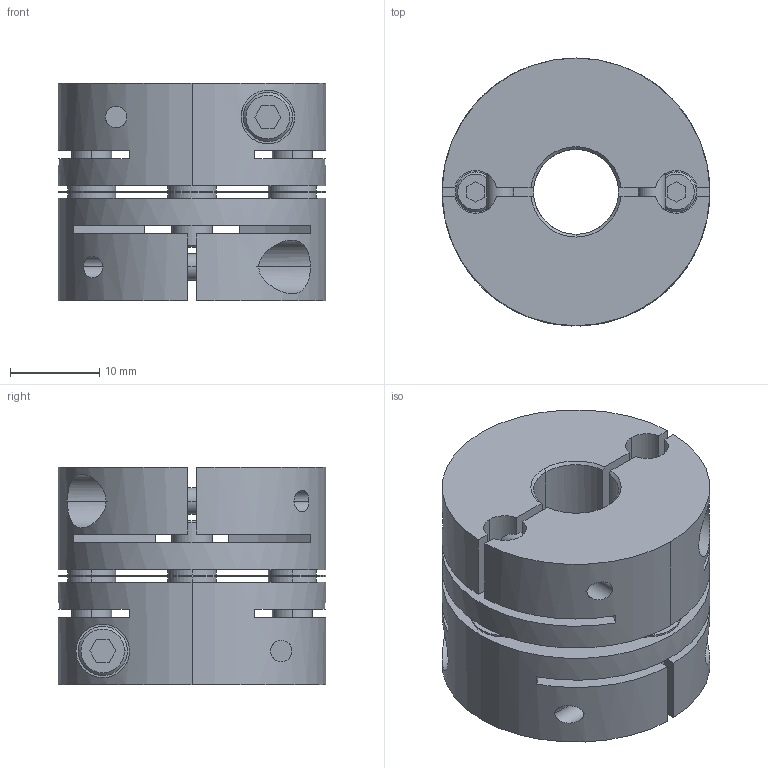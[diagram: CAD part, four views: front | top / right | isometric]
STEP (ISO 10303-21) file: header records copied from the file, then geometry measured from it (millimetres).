
FILE_DESCRIPTION((''),'2;1');
FILE_NAME('LAS-30C-9.525×12.stp','2015-10-14T15:23:35',(''),(''),'AutoCAD STEP 2000i','AutoCAD 2000i',', , ');
FILE_SCHEMA(('CONFIG_CONTROL_DESIGN'));
Length unit declared in the file: millimetre
Products named in the file (6): LAS-30C-6×10; 忣兜1; LA-3002-D10; LA-3002-D06-1; LA-3002-D06; LAS30-ITA
Assembly tree (5 placements, depth 2):
  LAS-30C-6×10
    忣兜1
    LA-3002-D10
    LA-3002-D06-1
    LA-3002-D06
    LAS30-ITA
Bounding box: 30 x 30 x 24.4 mm (x, y, z)
Volume: 12451.9 mm3; surface area: 9041.7 mm2
Topology: 1 solids, 1 shells, 240 faces, 636 edges, 416 vertices
Faces by surface type: plane 112, cylinder 100, cone 28
Entity records: 8333 total; most frequent: CARTESIAN_POINT 2034, DIRECTION 1316, ORIENTED_EDGE 1272, EDGE_CURVE 636, AXIS2_PLACEMENT_3D 482, VERTEX_POINT 416, VECTOR 352, LINE 352
